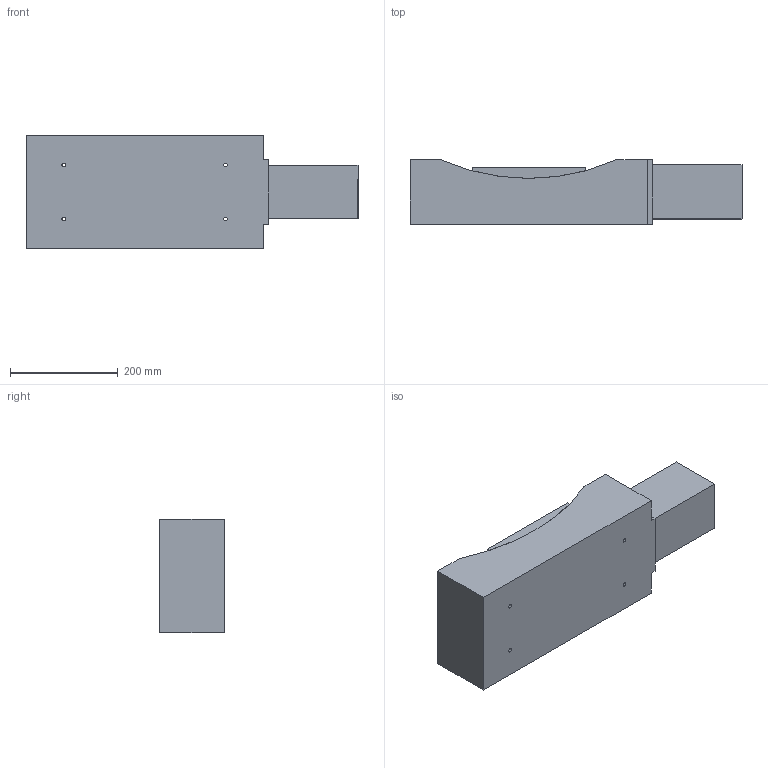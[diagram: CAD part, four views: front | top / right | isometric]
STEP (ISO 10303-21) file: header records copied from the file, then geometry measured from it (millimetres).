
FILE_DESCRIPTION (( 'STEP AP203' ), '1' );
FILE_NAME ('PT- GD307.STEP', '2022-08-21T10:38:03', ( '' ), ( '' ), 'SwSTEP 2.0', 'SolidWorks 2020', '' );
FILE_SCHEMA (( 'CONFIG_CONTROL_DESIGN' ));
Length unit declared in the file: millimetre
Products named in the file (3): ZJ130-15 ____^PT- GD307; PT- GD307; ZJ130-15____^PT- GD307
Assembly tree (2 placements, depth 2):
  PT- GD307
    ZJ130-15 ____^PT- GD307
    ZJ130-15____^PT- GD307
Bounding box: 615.6 x 120 x 210 mm (x, y, z)
Volume: 11916110.4 mm3; surface area: 511209.5 mm2
Topology: 2 solids, 2 shells, 264 faces, 700 edges, 454 vertices
Faces by surface type: plane 125, bspline 81, cylinder 38, cone 20
Entity records: 11939 total; most frequent: CARTESIAN_POINT 5644, ORIENTED_EDGE 1376, DIRECTION 954, EDGE_CURVE 688, VERTEX_POINT 454, VECTOR 442, LINE 442, EDGE_LOOP 306
